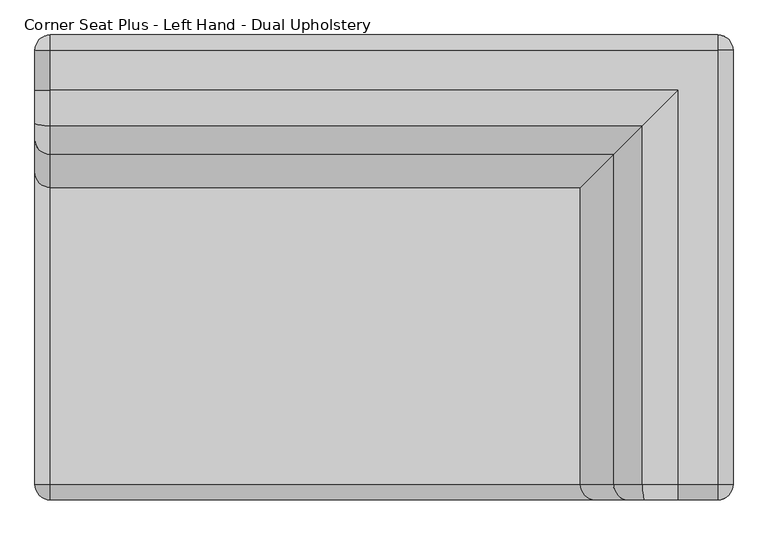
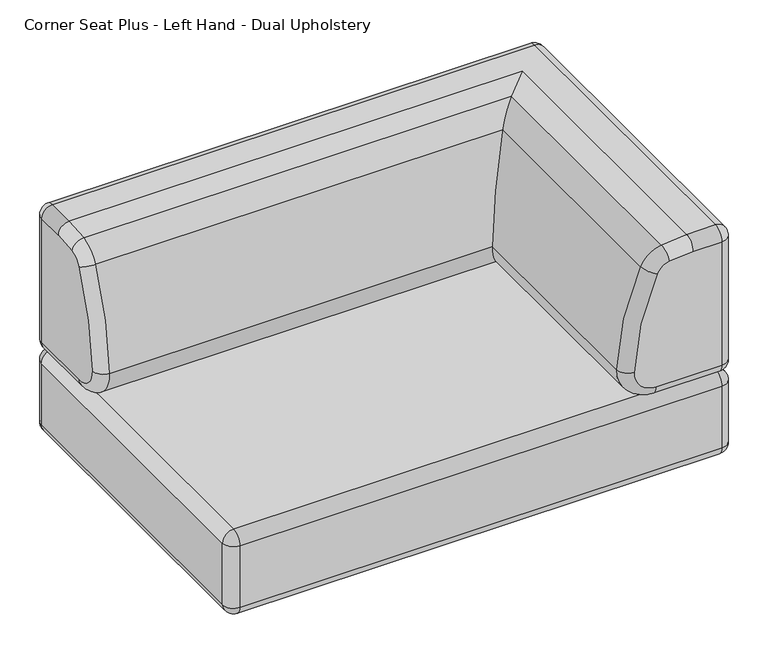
"""IFC4 building model written with IfcOpenShell, lengths in millimetres: furniture geometry, Stylex - Ambi Modular - Seat : Corner Seat Plus - Left Hand - Dual Upholstery."""

from ifc_helpers import new_model, si_unit, point, frame, origin, place, context, project, spatial, circle_curve, ellipse_curve, trimmed, source, transform, mapped, element, save
from ifc_brep_helpers import plane_surface, cylinder_surface, revolved_surface, advanced_brep


def corner_seat_plus_left_hand_dual_upholstery_20e1f833(model_context):
    return source(origin(), model_context, "Body", "AdvancedBrep", [
        advanced_brep(
        [(-546.1, 380.7944408, 773.9004878), (-546.1, 355.3485837, 799.3463449), (546.0541429, 355.3485837, 799.3463449), (546.0541429, 380.7944408, 773.9004878), (546.0541429, 380.7944408, 477.8149367), (546.0541429, 355.3485837, 452.3690796), (-546.1, 355.3485837, 452.3690796), (-546.1, 380.7944408, 477.8149367), (-546.1, 289.8044292, 799.3463449), (-546.1, 232.0608046, 794.4525268), (422.7663638, 232.0608046, 794.4525268), (480.5099884, 289.8044292, 799.3463449), (-546.1, 185.3635421, 759.0490898), (376.0691012, 185.3635421, 759.0490898), (-546.1, 130.7831086, 530.5895428), (321.4886677, 130.7831086, 530.5895428), (-546.1, 206.9563173, 452.3690796), (397.6618765, 206.9563173, 452.3690796), (546.0541429, -355.8055592, 452.3690796), (397.6618765, -355.8055592, 452.3690796), (422.7663638, -355.8055592, 794.4525268), (480.5099884, -355.8055592, 799.3463449), (376.0691012, -355.8055592, 759.0490898), (321.4886677, -355.8055592, 530.5895428), (546.0541429, -355.8055592, 799.3463449), (571.5, -355.8055592, 477.8149367), (571.5, 355.3485837, 477.8149367), (571.5, 355.3485837, 773.9004878), (571.5, -355.8055592, 773.9004878), (546.0541429, -381.2514163, 477.8149367), (397.6618765, -381.2514163, 477.8149367), (346.9255783, -381.2514163, 529.9148392), (399.0640835, -381.2514163, 748.1531073), (427.0487182, -381.2514163, 769.3696026), (480.5099884, -381.2514163, 773.9004878), (546.0541429, -381.2514163, 773.9004878), (-571.5458571, 355.3485837, 773.9004878), (-571.5458571, 355.3485837, 477.8149367), (-571.5458571, 289.8044292, 773.9004878), (-571.5458571, 206.9563173, 477.8149367), (-571.5458571, 156.2200192, 529.9148392), (-571.5458571, 208.3585244, 748.1531073), (-571.5458571, 236.343159, 769.3696026)],
        [
            (0, 1, circle_curve(frame((-546.1, 355.3485837, 773.9004878), z_axis=(1.0, 0.0, 0.0), x_axis=(0.0, -1.0, 0.0)), 25.4458571)),
            (1, 2),
            (2, 3, circle_curve(frame((546.0541429, 355.3485837, 773.9004878), z_axis=(-1.0, 0.0, 0.0), x_axis=(0.0, -1.0, 0.0)), 25.4458571)),
            (3, 0),
            (4, 5, circle_curve(frame((546.0541429, 355.3485837, 477.8149367), z_axis=(-1.0, 0.0, 0.0), x_axis=(0.0, -1.0, 0.0)), 25.4458571)),
            (5, 6),
            (6, 7, circle_curve(frame((-546.1, 355.3485837, 477.8149367), z_axis=(1.0, 0.0, 0.0), x_axis=(0.0, -1.0, 0.0)), 25.4458571)),
            (7, 4),
            (3, 4),
            (7, 0),
            (8, 9, circle_curve(frame((-546.1, 289.8044292, 456.2322814), z_axis=(1.0, 0.0, 0.0), x_axis=(0.0, -1.0, 0.0)), 343.1140635)),
            (9, 10),
            (10, 11, ellipse_curve(frame((480.5099884, 289.8044292, 456.2322814), z_axis=(-0.7071067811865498, 0.7071067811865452, 0.0), x_axis=(-0.7071067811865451, -0.7071067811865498, 0.0)), 485.236562, 343.1140635)),
            (11, 8),
            (9, 12, circle_curve(frame((-546.1, 242.7473971, 731.858224), z_axis=(1.0, 0.0, 0.0), x_axis=(0.0, -1.0, 0.0)), 63.5)),
            (12, 13),
            (13, 10, ellipse_curve(frame((433.4529562, 242.7473971, 731.858224), z_axis=(-0.7071067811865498, 0.7071067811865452, 0.0), x_axis=(-0.7071067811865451, -0.7071067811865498, 0.0)), 89.8025612, 63.5)),
            (12, 14, circle_curve(frame((-546.1, 699.3328159, 515.5089941), z_axis=(1.0, 0.0, 0.0), x_axis=(0.0, -1.0, 0.0)), 568.7496748)),
            (14, 15),
            (15, 13, ellipse_curve(frame((890.038375, 699.3328159, 515.5089941), z_axis=(-0.7071067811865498, 0.7071067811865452, 0.0), x_axis=(-0.7071067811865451, -0.7071067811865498, 0.0)), 804.3335037, 568.7496748)),
            (14, 16, circle_curve(frame((-546.1, 206.9563173, 528.5690796), z_axis=(1.0, 0.0, 0.0), x_axis=(0.0, -1.0, 0.0)), 76.2)),
            (16, 17),
            (17, 15, ellipse_curve(frame((397.6618765, 206.9563173, 528.5690796), z_axis=(-0.7071067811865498, 0.7071067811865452, 0.0), x_axis=(-0.7071067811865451, -0.7071067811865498, 0.0)), 107.7630735, 76.2)),
            (16, 6),
            (5, 18),
            (18, 19),
            (19, 17),
            (10, 20),
            (20, 21, circle_curve(frame((480.5099884, -355.8055592, 456.2322814), z_axis=(0.0, 1.0, 0.0), x_axis=(-1.0, 0.0, 0.0)), 343.1140635)),
            (21, 11),
            (13, 22),
            (22, 20, circle_curve(frame((433.4529562, -355.8055592, 731.858224), z_axis=(0.0, 1.0, 0.0), x_axis=(-1.0, 0.0, 0.0)), 63.5)),
            (15, 23),
            (23, 22, circle_curve(frame((890.038375, -355.8055592, 515.5089941), z_axis=(0.0, 1.0, 0.0), x_axis=(-1.0, 0.0, 0.0)), 568.7496748)),
            (19, 23, circle_curve(frame((397.6618765, -355.8055592, 528.5690796), z_axis=(0.0, 1.0, 0.0), x_axis=(-1.0, 0.0, 0.0)), 76.2)),
            (21, 24),
            (24, 2),
            (1, 8),
            (25, 18, circle_curve(frame((546.0541429, -355.8055592, 477.8149367), z_axis=(0.0, 1.0, 0.0), x_axis=(0.0, 0.0, 1.0)), 25.4458571)),
            (5, 26, circle_curve(frame((546.0541429, 355.3485837, 477.8149367), z_axis=(0.0, -1.0, 0.0), x_axis=(0.0, 0.0, 1.0)), 25.4458571)),
            (26, 25),
            (27, 2, circle_curve(frame((546.0541429, 355.3485837, 773.9004878), z_axis=(0.0, -1.0, 0.0), x_axis=(0.0, 0.0, 1.0)), 25.4458571)),
            (24, 28, circle_curve(frame((546.0541429, -355.8055592, 773.9004878), z_axis=(0.0, 1.0, 0.0), x_axis=(0.0, 0.0, 1.0)), 25.4458571)),
            (28, 27),
            (26, 27),
            (28, 25),
            (4, 26, circle_curve(frame((546.0541429, 355.3485837, 477.8149367), z_axis=(0.0, 0.0, -1.0), x_axis=(0.0, 1.0, 0.0)), 25.4458571)),
            (3, 27, circle_curve(frame((546.0541429, 355.3485837, 773.9004878), z_axis=(0.0, 0.0, -1.0), x_axis=(0.0, 1.0, 0.0)), 25.4458571)),
            (18, 29, circle_curve(frame((546.0541429, -355.8055592, 477.8149367), z_axis=(-1.0, 0.0, 0.0), x_axis=(0.0, 0.0, 1.0)), 25.4458571)),
            (29, 30),
            (30, 19, circle_curve(frame((397.6618765, -355.8055592, 477.8149367), z_axis=(1.0, 0.0, 0.0), x_axis=(0.0, 0.0, 1.0)), 25.4458571)),
            (30, 31, circle_curve(frame((397.6618765, -381.2514163, 528.5690796), z_axis=(0.0, 1.0, 0.0), x_axis=(0.0, 0.0, -1.0)), 50.7541429)),
            (31, 23, circle_curve(frame((346.9255783, -355.8055592, 529.9148392), z_axis=(-0.02651526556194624, 0.0, -0.9996484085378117), x_axis=(0.9996484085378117, 0.0, -0.02651526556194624)), 25.4458571)),
            (31, 32, circle_curve(frame((890.038375, -381.2514163, 515.5089941), z_axis=(0.0, 1.0, 0.0), x_axis=(-0.9996484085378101, 0.0, 0.026515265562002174)), 543.3038177)),
            (32, 22, circle_curve(frame((399.0640835, -355.8055592, 748.1531073), z_axis=(-0.428202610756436, 0.0, -0.9036827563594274), x_axis=(0.9036827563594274, 0.0, -0.428202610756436)), 25.4458571)),
            (32, 33, circle_curve(frame((433.4529562, -381.2514163, 731.858224), z_axis=(0.0, 1.0, 0.0), x_axis=(-0.9036827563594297, 0.0, 0.42820261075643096)), 38.0541429)),
            (33, 20, circle_curve(frame((427.0487182, -355.8055592, 769.3696026), z_axis=(-0.985737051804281, 0.0, -0.16829279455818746), x_axis=(0.16829279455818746, 0.0, -0.985737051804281)), 25.4458571)),
            (33, 34, circle_curve(frame((480.5099884, -381.2514163, 456.2322814), z_axis=(0.0, 1.0, 0.0), x_axis=(-0.1682927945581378, 0.0, 0.9857370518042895)), 317.6682064)),
            (34, 21, circle_curve(frame((480.5099884, -355.8055592, 773.9004878), z_axis=(-1.0, 0.0, 0.0), x_axis=(0.0, 0.0, -1.0)), 25.4458571)),
            (34, 35),
            (35, 24, circle_curve(frame((546.0541429, -355.8055592, 773.9004878), z_axis=(-1.0, 0.0, 0.0), x_axis=(0.0, 0.0, -1.0)), 25.4458571)),
            (29, 35),
            (25, 29, circle_curve(frame((546.0541429, -355.8055592, 477.8149367), z_axis=(0.0, 0.0, -1.0), x_axis=(0.0, -1.0, 0.0)), 25.4458571)),
            (28, 35, circle_curve(frame((546.0541429, -355.8055592, 773.9004878), z_axis=(0.0, 0.0, -1.0), x_axis=(0.0, -1.0, 0.0)), 25.4458571)),
            (36, 0, circle_curve(frame((-546.1, 355.3485837, 773.9004878), z_axis=(0.0, 0.0, -1.0), x_axis=(0.0, 1.0, 0.0)), 25.4458571)),
            (7, 37, circle_curve(frame((-546.1, 355.3485837, 477.8149367), z_axis=(0.0, 0.0, 1.0), x_axis=(0.0, 1.0, 0.0)), 25.4458571)),
            (37, 36),
            (6, 37, circle_curve(frame((-546.1, 355.3485837, 477.8149367), z_axis=(0.0, 1.0, 0.0), x_axis=(1.0, 0.0, 0.0)), 25.4458571)),
            (36, 1, circle_curve(frame((-546.1, 355.3485837, 773.9004878), z_axis=(0.0, 1.0, 0.0), x_axis=(1.0, 0.0, 0.0)), 25.4458571)),
            (36, 38),
            (38, 8, circle_curve(frame((-546.1, 289.8044292, 773.9004878), z_axis=(0.0, 1.0, 0.0), x_axis=(0.0, 0.0, 1.0)), 25.4458571)),
            (37, 39),
            (39, 40, circle_curve(frame((-571.5458571, 206.9563173, 528.5690796), z_axis=(-1.0, 0.0, 0.0), x_axis=(0.0, -0.9996484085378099, 0.02651526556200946)), 50.7541429)),
            (40, 41, circle_curve(frame((-571.5458571, 699.3328159, 515.5089941), z_axis=(-1.0, 0.0, 0.0), x_axis=(0.0, -0.9036827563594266, 0.42820261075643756)), 543.3038177)),
            (41, 42, circle_curve(frame((-571.5458571, 242.7473971, 731.858224), z_axis=(-1.0, 0.0, 0.0), x_axis=(0.0, -0.16829279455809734, 0.9857370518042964)), 38.0541429)),
            (42, 38, circle_curve(frame((-571.5458571, 289.8044292, 456.2322814), z_axis=(-1.0, 0.0, 0.0), x_axis=(0.0, 0.0, 1.0)), 317.6682064)),
            (42, 9, circle_curve(frame((-546.1, 236.343159, 769.3696026), z_axis=(0.0, 0.9857370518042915, 0.1682927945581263), x_axis=(0.0, -0.1682927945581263, 0.9857370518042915)), 25.4458571)),
            (41, 12, circle_curve(frame((-546.1, 208.3585244, 748.1531073), z_axis=(0.0, 0.4282026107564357, 0.9036827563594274), x_axis=(0.0, -0.9036827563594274, 0.4282026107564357)), 25.4458571)),
            (40, 14, circle_curve(frame((-546.1, 156.2200192, 529.9148392), z_axis=(0.0, 0.026515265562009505, 0.9996484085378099), x_axis=(0.0, -0.9996484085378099, 0.026515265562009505)), 25.4458571)),
            (39, 16, circle_curve(frame((-546.1, 206.9563173, 477.8149367), z_axis=(0.0, -1.0, 0.0), x_axis=(0.0, 0.0, -1.0)), 25.4458571)),
        ],
        [
            cylinder_surface(frame((-546.1, 355.3485837, 773.9004878), z_axis=(1.0, 0.0, 0.0), x_axis=(0.0, -1.0, 0.0)), 25.4458571),
            cylinder_surface(frame((-546.1, 355.3485837, 477.8149367), z_axis=(1.0, 0.0, 0.0), x_axis=(0.0, -1.0, 0.0)), 25.4458571),
            plane_surface(frame((546.0541429, 380.7944408, 773.9004878), z_axis=(0.0, 1.0, 0.0), x_axis=(-1.0, 0.0, 0.0))),
            cylinder_surface(frame((-546.1, 289.8044292, 456.2322814), z_axis=(-1.0, 0.0, 0.0), x_axis=(0.0, -1.0, 0.0)), 343.1140635),
            cylinder_surface(frame((-546.1, 242.7473971, 731.858224), z_axis=(-1.0, 0.0, 0.0), x_axis=(0.0, -1.0, 0.0)), 63.5),
            cylinder_surface(frame((-546.1, 699.3328159, 515.5089941), z_axis=(-1.0, 0.0, 0.0), x_axis=(0.0, -1.0, 0.0)), 568.7496748),
            cylinder_surface(frame((-546.1, 206.9563173, 528.5690796), z_axis=(-1.0, 0.0, 0.0), x_axis=(0.0, -1.0, 0.0)), 76.2),
            plane_surface(frame((-546.1, 206.9563173, 452.3690796), z_axis=(0.0, 0.0, -1.0), x_axis=(1.0, 0.0, 0.0))),
            cylinder_surface(frame((480.5099884, 380.7944408, 456.2322814), z_axis=(0.0, 1.0, 0.0), x_axis=(-1.0, 0.0, 0.0)), 343.1140635),
            cylinder_surface(frame((433.4529562, 380.7944408, 731.858224), z_axis=(0.0, 1.0, 0.0), x_axis=(-1.0, 0.0, 0.0)), 63.5),
            cylinder_surface(frame((890.038375, 380.7944408, 515.5089941), z_axis=(0.0, 1.0, 0.0), x_axis=(-1.0, 0.0, 0.0)), 568.7496748),
            cylinder_surface(frame((397.6618765, 380.7944408, 528.5690796), z_axis=(0.0, 1.0, 0.0), x_axis=(-1.0, 0.0, 0.0)), 76.2),
            plane_surface(frame((-546.1, 355.3485837, 799.3463449), z_axis=(0.0, 0.0, 1.0), x_axis=(1.0, 0.0, 0.0))),
            cylinder_surface(frame((546.0541429, 355.3485837, 477.8149367), z_axis=(0.0, -1.0, 0.0), x_axis=(0.0, 0.0, 1.0)), 25.4458571),
            cylinder_surface(frame((546.0541429, 355.3485837, 773.9004878), z_axis=(0.0, -1.0, 0.0), x_axis=(0.0, 0.0, 1.0)), 25.4458571),
            plane_surface(frame((571.5, -355.8055592, 773.9004878), z_axis=(1.0, 0.0, 0.0), x_axis=(0.0, 1.0, 0.0))),
            revolved_surface(trimmed(ellipse_curve(frame((546.0541429, 355.3485837, 477.8149367), z_axis=(-1.0, 0.0, 0.0), x_axis=(0.0, -1.0, 0.0)), 25.4458571, 25.4458571), [point((546.0541429, 380.7944408, 477.8149367))], [point((546.0541429, 355.3485837, 452.3690796))], True, "CARTESIAN"), (546.0541429, 355.3485837, 799.3463449), (0.0, 0.0, -1.0)),
            cylinder_surface(frame((546.0541429, 355.3485837, 799.3463449), z_axis=(0.0, 0.0, -1.0), x_axis=(0.0, 1.0, 0.0)), 25.4458571),
            revolved_surface(trimmed(ellipse_curve(frame((546.0541429, 355.3485837, 773.9004878), z_axis=(-1.0, 0.0, 0.0), x_axis=(0.0, -1.0, 0.0)), 25.4458571, 25.4458571), [point((546.0541429, 355.3485837, 799.3463449))], [point((546.0541429, 380.7944408, 773.9004878))], True, "CARTESIAN"), (546.0541429, 355.3485837, 799.3463449), (0.0, 0.0, -1.0)),
            cylinder_surface(frame((546.0541429, -355.8055592, 477.8149367), z_axis=(1.0, 0.0, 0.0), x_axis=(0.0, 0.0, 1.0)), 25.4458571),
            revolved_surface(trimmed(ellipse_curve(frame((397.6618765, -355.8055592, 477.8149367), z_axis=(-1.0, 0.0, 0.0), x_axis=(0.0, 0.0, 1.0)), 25.4458571, 25.4458571), [point((397.6618765, -355.8055592, 452.3690796))], [point((397.6618765, -381.2514163, 477.8149367))], True, "CARTESIAN"), (397.6618765, -355.8055592, 528.5690796), (0.0, -1.0, 0.0)),
            revolved_surface(trimmed(ellipse_curve(frame((346.9255783, -355.8055592, 529.9148392), z_axis=(0.02651526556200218, 0.0, 0.9996484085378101), x_axis=(0.9996484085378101, 0.0, -0.02651526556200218)), 25.4458571, 25.4458571), [point((321.4886677, -355.8055592, 530.5895428))], [point((346.9255783, -381.2514163, 529.9148392))], True, "CARTESIAN"), (890.038375, -355.8055592, 515.5089941), (0.0, -1.0, 0.0)),
            revolved_surface(trimmed(ellipse_curve(frame((399.0640835, -355.8055592, 748.1531073), z_axis=(0.42820261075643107, 0.0, 0.9036827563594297), x_axis=(0.9036827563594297, 0.0, -0.42820261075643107)), 25.4458571, 25.4458571), [point((376.0691012, -355.8055592, 759.0490898))], [point((399.0640835, -381.2514163, 748.1531073))], True, "CARTESIAN"), (433.4529562, -355.8055592, 731.858224), (0.0, -1.0, 0.0)),
            revolved_surface(trimmed(ellipse_curve(frame((427.0487182, -355.8055592, 769.3696026), z_axis=(0.9857370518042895, 0.0, 0.16829279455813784), x_axis=(0.16829279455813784, 0.0, -0.9857370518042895)), 25.4458571, 25.4458571), [point((422.7663638, -355.8055592, 794.4525268))], [point((427.0487182, -381.2514163, 769.3696026))], True, "CARTESIAN"), (480.5099884, -355.8055592, 456.2322814), (0.0, -1.0, 0.0)),
            cylinder_surface(frame((480.5099884, -355.8055592, 773.9004878), z_axis=(-1.0, 0.0, 0.0), x_axis=(0.0, 0.0, -1.0)), 25.4458571),
            plane_surface(frame((433.4529562, -381.2514163, 769.9123669), z_axis=(0.0, -1.0, 0.0), x_axis=(1.0, 0.0, 0.0))),
            revolved_surface(trimmed(ellipse_curve(frame((546.0541429, -355.8055592, 477.8149367), z_axis=(-1.0, 0.0, 0.0), x_axis=(0.0, 1.0, 0.0)), 25.4458571, 25.4458571), [point((546.0541429, -355.8055592, 452.3690796))], [point((546.0541429, -381.2514163, 477.8149367))], True, "CARTESIAN"), (546.0541429, -355.8055592, 799.3463449), (0.0, 0.0, 1.0)),
            cylinder_surface(frame((546.0541429, -355.8055592, 799.3463449), z_axis=(0.0, 0.0, 1.0), x_axis=(0.0, -1.0, 0.0)), 25.4458571),
            revolved_surface(trimmed(ellipse_curve(frame((546.0541429, -355.8055592, 773.9004878), z_axis=(-1.0, 0.0, 0.0), x_axis=(0.0, 1.0, 0.0)), 25.4458571, 25.4458571), [point((546.0541429, -381.2514163, 773.9004878))], [point((546.0541429, -355.8055592, 799.3463449))], True, "CARTESIAN"), (546.0541429, -355.8055592, 799.3463449), (0.0, 0.0, 1.0)),
            cylinder_surface(frame((-546.1, 355.3485837, 799.3463449), z_axis=(0.0, 0.0, -1.0), x_axis=(0.0, 1.0, 0.0)), 25.4458571),
            revolved_surface(trimmed(ellipse_curve(frame((-546.1, 355.3485837, 477.8149367), z_axis=(-1.0, 0.0, 0.0), x_axis=(0.0, -1.0, 0.0)), 25.4458571, 25.4458571), [point((-546.1, 380.7944408, 477.8149367))], [point((-546.1, 355.3485837, 452.3690796))], True, "CARTESIAN"), (-546.1, 355.3485837, 799.3463449), (0.0, 0.0, -1.0)),
            revolved_surface(trimmed(ellipse_curve(frame((-546.1, 355.3485837, 773.9004878), z_axis=(-1.0, 0.0, 0.0), x_axis=(0.0, -1.0, 0.0)), 25.4458571, 25.4458571), [point((-546.1, 355.3485837, 799.3463449))], [point((-546.1, 380.7944408, 773.9004878))], True, "CARTESIAN"), (-546.1, 355.3485837, 799.3463449), (0.0, 0.0, -1.0)),
            cylinder_surface(frame((-546.1, 355.3485837, 773.9004878), z_axis=(0.0, 1.0, 0.0), x_axis=(0.0, 0.0, 1.0)), 25.4458571),
            plane_surface(frame((-571.5458571, 355.3485837, 773.9004878), z_axis=(-1.0, 0.0, 0.0), x_axis=(0.0, -1.0, 0.0))),
            revolved_surface(trimmed(ellipse_curve(frame((-546.1, 289.8044292, 773.9004878), z_axis=(0.0, -1.0, 0.0), x_axis=(0.0, 0.0, 1.0)), 25.4458571, 25.4458571), [point((-546.1, 289.8044292, 799.3463449))], [point((-571.5458571, 289.8044292, 773.9004878))], True, "CARTESIAN"), (-546.1, 289.8044292, 456.2322814), (-1.0, 0.0, 0.0)),
            revolved_surface(trimmed(ellipse_curve(frame((-546.1, 236.343159, 769.3696026), z_axis=(0.0, -0.9857370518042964, -0.16829279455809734), x_axis=(0.0, -0.16829279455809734, 0.9857370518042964)), 25.4458571, 25.4458571), [point((-546.1, 232.0608046, 794.4525268))], [point((-571.5458571, 236.343159, 769.3696026))], True, "CARTESIAN"), (-546.1, 242.7473971, 731.858224), (-1.0, 0.0, 0.0)),
            revolved_surface(trimmed(ellipse_curve(frame((-546.1, 208.3585244, 748.1531073), z_axis=(0.0, -0.4282026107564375, -0.9036827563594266), x_axis=(0.0, -0.9036827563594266, 0.4282026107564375)), 25.4458571, 25.4458571), [point((-546.1, 185.3635421, 759.0490898))], [point((-571.5458571, 208.3585244, 748.1531073))], True, "CARTESIAN"), (-546.1, 699.3328159, 515.5089941), (-1.0, 0.0, 0.0)),
            revolved_surface(trimmed(ellipse_curve(frame((-546.1, 156.2200192, 529.9148392), z_axis=(0.0, -0.026515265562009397, -0.9996484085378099), x_axis=(0.0, -0.9996484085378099, 0.026515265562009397)), 25.4458571, 25.4458571), [point((-546.1, 130.7831086, 530.5895428))], [point((-571.5458571, 156.2200192, 529.9148392))], True, "CARTESIAN"), (-546.1, 206.9563173, 528.5690796), (-1.0, 0.0, 0.0)),
            cylinder_surface(frame((-546.1, 206.9563173, 477.8149367), z_axis=(0.0, -1.0, 0.0), x_axis=(0.0, 0.0, -1.0)), 25.4458571),
        ],
        [
            (0, [[1, 2, 3, 4]]),
            (1, [[5, 6, 7, 8]]),
            (2, [[9, -8, 10, -4]]),
            (3, [[11, 12, 13, 14]]),
            (4, [[15, 16, 17, -12]]),
            (5, [[18, 19, 20, -16]]),
            (6, [[21, 22, 23, -19]]),
            (7, [[24, -6, 25, 26, 27, -22]]),
            (8, [[28, 29, 30, -13]]),
            (9, [[31, 32, -28, -17]]),
            (10, [[33, 34, -31, -20]]),
            (11, [[-27, 35, -33, -23]]),
            (12, [[-30, 36, 37, -2, 38, -14]]),
            (13, [[39, -25, 40, 41]]),
            (14, [[42, -37, 43, 44]]),
            (15, [[45, -44, 46, -41]]),
            (16, [[-40, -5, 47]]),
            (17, [[-9, 48, -45, -47]]),
            (18, [[-3, -42, -48]]),
            (19, [[-26, 49, 50, 51]]),
            (20, [[52, 53, -35, -51]]),
            (21, [[54, 55, -34, -53]]),
            (22, [[56, 57, -32, -55]]),
            (23, [[58, 59, -29, -57]]),
            (24, [[60, 61, -36, -59]]),
            (25, [[62, -60, -58, -56, -54, -52, -50]]),
            (26, [[-49, -39, 63]]),
            (27, [[-46, 64, -62, -63]]),
            (28, [[-43, -61, -64]]),
            (29, [[65, -10, 66, 67]]),
            (30, [[-7, 68, -66]]),
            (31, [[69, -1, -65]]),
            (32, [[-38, -69, 70, 71]]),
            (33, [[-67, 72, 73, 74, 75, 76, -70]]),
            (34, [[-76, 77, -11, -71]]),
            (35, [[78, -15, -77, -75]]),
            (36, [[79, -18, -78, -74]]),
            (37, [[80, -21, -79, -73]]),
            (38, [[-68, -24, -80, -72]]),
        ],
    ),
        advanced_brep(
        [(546.1, -381.2055592, 279.4), (546.1, -381.2055592, 426.9232225), (-546.1, -381.2055592, 426.9232225), (-546.1, -381.2055592, 279.4), (546.1, -355.8055592, 452.3232225), (546.1, 355.3944408, 452.3232225), (-546.1, 355.3944408, 452.3232225), (-546.1, -355.8055592, 452.3232225), (546.1, 380.7944408, 426.9232225), (546.1, 380.7944408, 279.4), (-546.1, 380.7944408, 279.4), (-546.1, 380.7944408, 426.9232225), (546.1, 355.3944408, 254.0), (546.1, -355.8055592, 254.0), (-546.1, -355.8055592, 254.0), (-546.1, 355.3944408, 254.0), (-571.5, 355.3944408, 426.9232225), (-571.5, -355.8055592, 426.9232225), (571.5, -355.8055592, 426.9232225), (571.5, 355.3944408, 426.9232225), (-571.5, 355.3944408, 279.4), (571.5, 355.3944408, 279.4), (-571.5, -355.8055592, 279.4), (571.5, -355.8055592, 279.4)],
        [
            (0, 1),
            (1, 2),
            (2, 3),
            (3, 0),
            (4, 5),
            (5, 6),
            (6, 7),
            (7, 4),
            (8, 9),
            (9, 10),
            (10, 11),
            (11, 8),
            (12, 13),
            (13, 14),
            (14, 15),
            (15, 12),
            (6, 16, circle_curve(frame((-546.1, 355.3944408, 426.9232225), z_axis=(0.0, -1.0, 0.0), x_axis=(0.0, 0.0, 1.0)), 25.4)),
            (16, 17),
            (17, 7, circle_curve(frame((-546.1, -355.8055592, 426.9232225), z_axis=(0.0, 1.0, 0.0), x_axis=(0.0, 0.0, 1.0)), 25.4)),
            (4, 18, circle_curve(frame((546.1, -355.8055592, 426.9232225), z_axis=(0.0, 1.0, 0.0), x_axis=(0.0, 0.0, 1.0)), 25.4)),
            (18, 19),
            (19, 5, circle_curve(frame((546.1, 355.3944408, 426.9232225), z_axis=(0.0, -1.0, 0.0), x_axis=(0.0, 0.0, 1.0)), 25.4)),
            (10, 20, circle_curve(frame((-546.1, 355.3944408, 279.4), z_axis=(0.0, 0.0, 1.0), x_axis=(0.0, 1.0, 0.0)), 25.4)),
            (20, 16),
            (16, 11, circle_curve(frame((-546.1, 355.3944408, 426.9232225), z_axis=(0.0, 0.0, -1.0), x_axis=(0.0, 1.0, 0.0)), 25.4)),
            (8, 19, circle_curve(frame((546.1, 355.3944408, 426.9232225), z_axis=(0.0, 0.0, -1.0), x_axis=(0.0, 1.0, 0.0)), 25.4)),
            (19, 21),
            (21, 9, circle_curve(frame((546.1, 355.3944408, 279.4), z_axis=(0.0, 0.0, 1.0), x_axis=(0.0, 1.0, 0.0)), 25.4)),
            (14, 22, circle_curve(frame((-546.1, -355.8055592, 279.4), z_axis=(0.0, 1.0, 0.0), x_axis=(0.0, 0.0, -1.0)), 25.4)),
            (22, 20),
            (20, 15, circle_curve(frame((-546.1, 355.3944408, 279.4), z_axis=(0.0, -1.0, 0.0), x_axis=(0.0, 0.0, -1.0)), 25.4)),
            (12, 21, circle_curve(frame((546.1, 355.3944408, 279.4), z_axis=(0.0, -1.0, 0.0), x_axis=(0.0, 0.0, -1.0)), 25.4)),
            (21, 23),
            (23, 13, circle_curve(frame((546.1, -355.8055592, 279.4), z_axis=(0.0, 1.0, 0.0), x_axis=(0.0, 0.0, -1.0)), 25.4)),
            (2, 17, circle_curve(frame((-546.1, -355.8055592, 426.9232225), z_axis=(0.0, 0.0, -1.0), x_axis=(0.0, -1.0, 0.0)), 25.4)),
            (17, 22),
            (22, 3, circle_curve(frame((-546.1, -355.8055592, 279.4), z_axis=(0.0, 0.0, 1.0), x_axis=(0.0, -1.0, 0.0)), 25.4)),
            (0, 23, circle_curve(frame((546.1, -355.8055592, 279.4), z_axis=(0.0, 0.0, 1.0), x_axis=(0.0, -1.0, 0.0)), 25.4)),
            (23, 18),
            (18, 1, circle_curve(frame((546.1, -355.8055592, 426.9232225), z_axis=(0.0, 0.0, -1.0), x_axis=(0.0, -1.0, 0.0)), 25.4)),
            (1, 4, circle_curve(frame((546.1, -355.8055592, 426.9232225), z_axis=(-1.0, 0.0, 0.0), x_axis=(0.0, 0.0, 1.0)), 25.4)),
            (7, 2, circle_curve(frame((-546.1, -355.8055592, 426.9232225), z_axis=(1.0, 0.0, 0.0), x_axis=(0.0, 0.0, 1.0)), 25.4)),
            (3, 14, circle_curve(frame((-546.1, -355.8055592, 279.4), z_axis=(1.0, 0.0, 0.0), x_axis=(0.0, 0.0, -1.0)), 25.4)),
            (13, 0, circle_curve(frame((546.1, -355.8055592, 279.4), z_axis=(-1.0, 0.0, 0.0), x_axis=(0.0, 0.0, -1.0)), 25.4)),
            (9, 12, circle_curve(frame((546.1, 355.3944408, 279.4), z_axis=(-1.0, 0.0, 0.0), x_axis=(0.0, 0.0, -1.0)), 25.4)),
            (15, 10, circle_curve(frame((-546.1, 355.3944408, 279.4), z_axis=(1.0, 0.0, 0.0), x_axis=(0.0, 0.0, -1.0)), 25.4)),
            (6, 11, circle_curve(frame((-546.1, 355.3944408, 426.9232225), z_axis=(-1.0, 0.0, 0.0), x_axis=(0.0, 0.0, 1.0)), 25.4)),
            (8, 5, circle_curve(frame((546.1, 355.3944408, 426.9232225), z_axis=(1.0, 0.0, 0.0), x_axis=(0.0, 0.0, 1.0)), 25.4)),
        ],
        [
            plane_surface(frame((546.1, -381.2055592, 254.0), z_axis=(0.0, -1.0, 0.0), x_axis=(0.0, 0.0, 1.0))),
            plane_surface(frame((546.1, -381.2055592, 452.3232225), z_axis=(0.0, 0.0, 1.0), x_axis=(0.0, 1.0, 0.0))),
            plane_surface(frame((546.1, 380.7944408, 452.3232225), z_axis=(0.0, 1.0, 0.0), x_axis=(0.0, 0.0, -1.0))),
            plane_surface(frame((546.1, 380.7944408, 254.0), z_axis=(0.0, 0.0, -1.0), x_axis=(0.0, -1.0, 0.0))),
            cylinder_surface(frame((-546.1, -381.2055592, 426.9232225), z_axis=(0.0, -1.0, 0.0), x_axis=(0.0, 0.0, 1.0)), 25.4),
            cylinder_surface(frame((546.1, -381.2055592, 426.9232225), z_axis=(0.0, -1.0, 0.0), x_axis=(0.0, 0.0, 1.0)), 25.4),
            cylinder_surface(frame((-546.1, 355.3944408, 452.3232225), z_axis=(0.0, 0.0, 1.0), x_axis=(0.0, 1.0, 0.0)), 25.4),
            cylinder_surface(frame((546.1, 355.3944408, 452.3232225), z_axis=(0.0, 0.0, 1.0), x_axis=(0.0, 1.0, 0.0)), 25.4),
            cylinder_surface(frame((-546.1, 380.7944408, 279.4), z_axis=(0.0, 1.0, 0.0), x_axis=(0.0, 0.0, -1.0)), 25.4),
            cylinder_surface(frame((546.1, 380.7944408, 279.4), z_axis=(0.0, 1.0, 0.0), x_axis=(0.0, 0.0, -1.0)), 25.4),
            cylinder_surface(frame((-546.1, -355.8055592, 254.0), z_axis=(0.0, 0.0, -1.0), x_axis=(0.0, -1.0, 0.0)), 25.4),
            cylinder_surface(frame((546.1, -355.8055592, 254.0), z_axis=(0.0, 0.0, -1.0), x_axis=(0.0, -1.0, 0.0)), 25.4),
            plane_surface(frame((571.5, 355.3944408, 426.9232225), z_axis=(1.0, 0.0, 0.0), x_axis=(0.0, 0.0, 1.0))),
            plane_surface(frame((-571.5, 355.3944408, 426.9232225), z_axis=(-1.0, 0.0, 0.0), x_axis=(0.0, 0.0, -1.0))),
            cylinder_surface(frame((-571.5, -355.8055592, 426.9232225), z_axis=(-1.0, 0.0, 0.0), x_axis=(0.0, 0.0, 1.0)), 25.4),
            revolved_surface(trimmed(ellipse_curve(frame((546.1, -355.8055592, 426.9232225), z_axis=(0.0, -1.0, 0.0), x_axis=(0.0, 0.0, -1.0)), 25.4, 25.4), [point((571.5, -355.8055592, 426.9232225))], [point((546.1, -355.8055592, 452.3232225))], True, "CARTESIAN"), (-571.5, -355.8055592, 426.9232225), (-1.0, 0.0, 0.0)),
            revolved_surface(trimmed(ellipse_curve(frame((-546.1, -355.8055592, 426.9232225), z_axis=(0.0, -1.0, 0.0), x_axis=(0.0, 0.0, -1.0)), 25.4, 25.4), [point((-546.1, -355.8055592, 452.3232225))], [point((-571.5, -355.8055592, 426.9232225))], True, "CARTESIAN"), (-571.5, -355.8055592, 426.9232225), (-1.0, 0.0, 0.0)),
            cylinder_surface(frame((571.5, -355.8055592, 279.4), z_axis=(1.0, 0.0, 0.0), x_axis=(0.0, 0.0, -1.0)), 25.4),
            revolved_surface(trimmed(ellipse_curve(frame((-546.1, -355.8055592, 279.4), z_axis=(0.0, -1.0, 0.0), x_axis=(0.0, 0.0, 1.0)), 25.4, 25.4), [point((-571.5, -355.8055592, 279.4))], [point((-546.1, -355.8055592, 254.0))], True, "CARTESIAN"), (571.5, -355.8055592, 279.4), (1.0, 0.0, 0.0)),
            revolved_surface(trimmed(ellipse_curve(frame((546.1, -355.8055592, 279.4), z_axis=(0.0, -1.0, 0.0), x_axis=(0.0, 0.0, 1.0)), 25.4, 25.4), [point((546.1, -355.8055592, 254.0))], [point((571.5, -355.8055592, 279.4))], True, "CARTESIAN"), (571.5, -355.8055592, 279.4), (1.0, 0.0, 0.0)),
            cylinder_surface(frame((571.5, 355.3944408, 279.4), z_axis=(-1.0, 0.0, 0.0), x_axis=(0.0, 0.0, -1.0)), 25.4),
            revolved_surface(trimmed(ellipse_curve(frame((546.1, 355.3944408, 279.4), z_axis=(0.0, 1.0, 0.0), x_axis=(0.0, 0.0, 1.0)), 25.4, 25.4), [point((571.5, 355.3944408, 279.4))], [point((546.1, 355.3944408, 254.0))], True, "CARTESIAN"), (571.5, 355.3944408, 279.4), (-1.0, 0.0, 0.0)),
            revolved_surface(trimmed(ellipse_curve(frame((-546.1, 355.3944408, 279.4), z_axis=(0.0, 1.0, 0.0), x_axis=(0.0, 0.0, 1.0)), 25.4, 25.4), [point((-546.1, 355.3944408, 254.0))], [point((-571.5, 355.3944408, 279.4))], True, "CARTESIAN"), (571.5, 355.3944408, 279.4), (-1.0, 0.0, 0.0)),
            revolved_surface(trimmed(ellipse_curve(frame((-546.1, 355.3944408, 426.9232225), z_axis=(0.0, 1.0, 0.0), x_axis=(0.0, 0.0, -1.0)), 25.4, 25.4), [point((-571.5, 355.3944408, 426.9232225))], [point((-546.1, 355.3944408, 452.3232225))], True, "CARTESIAN"), (571.5, 355.3944408, 426.9232225), (1.0, 0.0, 0.0)),
            revolved_surface(trimmed(ellipse_curve(frame((546.1, 355.3944408, 426.9232225), z_axis=(0.0, 1.0, 0.0), x_axis=(0.0, 0.0, -1.0)), 25.4, 25.4), [point((546.1, 355.3944408, 452.3232225))], [point((571.5, 355.3944408, 426.9232225))], True, "CARTESIAN"), (571.5, 355.3944408, 426.9232225), (1.0, 0.0, 0.0)),
            cylinder_surface(frame((571.5, 355.3944408, 426.9232225), z_axis=(1.0, 0.0, 0.0), x_axis=(0.0, 0.0, 1.0)), 25.4),
        ],
        [
            (0, [[1, 2, 3, 4]]),
            (1, [[5, 6, 7, 8]]),
            (2, [[9, 10, 11, 12]]),
            (3, [[13, 14, 15, 16]]),
            (4, [[-7, 17, 18, 19]]),
            (5, [[-5, 20, 21, 22]]),
            (6, [[-11, 23, 24, 25]]),
            (7, [[-9, 26, 27, 28]]),
            (8, [[-15, 29, 30, 31]]),
            (9, [[-13, 32, 33, 34]]),
            (10, [[-3, 35, 36, 37]]),
            (11, [[-1, 38, 39, 40]]),
            (12, [[-21, -39, -33, -27]]),
            (13, [[-18, -24, -30, -36]]),
            (14, [[41, -8, 42, -2]]),
            (15, [[-41, -40, -20]]),
            (16, [[-42, -19, -35]]),
            (17, [[43, -14, 44, -4]]),
            (18, [[-43, -37, -29]]),
            (19, [[-44, -34, -38]]),
            (20, [[45, -16, 46, -10]]),
            (21, [[-45, -28, -32]]),
            (22, [[-46, -31, -23]]),
            (23, [[47, -25, -17]]),
            (24, [[48, -22, -26]]),
            (25, [[-47, -6, -48, -12]]),
        ],
    ),
    ])


if __name__ == "__main__":
    model = new_model("IFC4")
    model_context = context("Model", 3, world=origin())
    ifc_project = project(units=[si_unit("LENGTHUNIT", "METRE", prefix="MILLI")], contexts=[model_context])
    site = spatial("IfcSite", under=ifc_project)
    building = spatial("IfcBuilding", under=site)
    placement = place(None, origin())
    corner_seat_plus_left_hand_dual_upholstery_shape = corner_seat_plus_left_hand_dual_upholstery_20e1f833(model_context)
    element("IfcFurniture", 1, ObjectType="Stylex - Ambi Modular - Seat : Corner Seat Plus - Left Hand - Dual Upholstery", at=placement, inside=building, context=model_context, shape_type="MappedRepresentation", body=[
        mapped(corner_seat_plus_left_hand_dual_upholstery_shape, transform((0.0, 0.0, 0.0), x_axis=(1.0, 0.0, 0.0), y_axis=(0.0, 1.0, 0.0), z_axis=(0.0, 0.0, 1.0))),
    ])
    save(model, "model.ifc")
